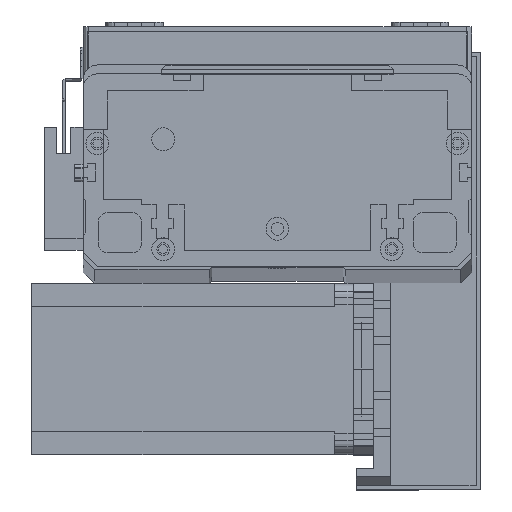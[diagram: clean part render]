
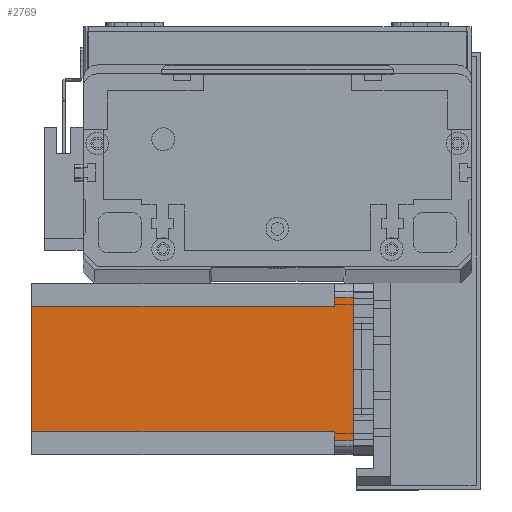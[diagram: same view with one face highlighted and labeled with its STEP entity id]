
A CAD part, top view. The second image highlights one B-rep face of the part: STEP entity #2769.
In plain terms, the highlighted planar face has unit normal (0, 0, 1) as drawn and (0, -1, 0) by its records, which use the part's own axes.
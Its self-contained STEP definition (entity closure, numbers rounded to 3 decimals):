
#468 = EDGE_CURVE ( 'NONE', #26422, #17543, #1198, .T. ) ;
#1128 = ORIENTED_EDGE ( 'NONE', *, *, #14085, .T. ) ;
#1198 = LINE ( 'NONE', #6750, #25864 ) ;
#1526 = EDGE_LOOP ( 'NONE', ( #18288, #14370, #23108, #1128, #24113, #30729, #12075, #21266 ) ) ;
#2769 = ADVANCED_FACE ( 'NONE', ( #15404 ), #23449, .T. ) ;
#2921 = EDGE_CURVE ( 'NONE', #29241, #30781, #5242, .T. ) ;
#4244 = LINE ( 'NONE', #14426, #27968 ) ;
#4728 = CARTESIAN_POINT ( 'NONE',  ( 0., 0., -112.5 ) ) ;
#4792 = DIRECTION ( 'NONE',  ( 0., 0., 1. ) ) ;
#5242 = LINE ( 'NONE', #11088, #15777 ) ;
#5704 = CARTESIAN_POINT ( 'NONE',  ( 8., 0., -6.5 ) ) ;
#6750 = CARTESIAN_POINT ( 'NONE',  ( 8., 0., -112.5 ) ) ;
#6922 = CARTESIAN_POINT ( 'NONE',  ( 52., 0., -112.5 ) ) ;
#7076 = VERTEX_POINT ( 'NONE', #6922 ) ;
#7979 = VERTEX_POINT ( 'NONE', #28545 ) ;
#9500 = DIRECTION ( 'NONE',  ( -1., 0., 0. ) ) ;
#9653 = DIRECTION ( 'NONE',  ( 1., 0., 0. ) ) ;
#9737 = VECTOR ( 'NONE', #9653, 1000. ) ;
#9899 = EDGE_CURVE ( 'NONE', #26422, #7076, #21628, .T. ) ;
#10257 = DIRECTION ( 'NONE',  ( 1., 0., 0. ) ) ;
#10340 = VECTOR ( 'NONE', #18407, 1000. ) ;
#10406 = CARTESIAN_POINT ( 'NONE',  ( 8., 0., -112.5 ) ) ;
#10653 = EDGE_CURVE ( 'NONE', #13506, #7979, #30642, .T. ) ;
#11088 = CARTESIAN_POINT ( 'NONE',  ( 0., 0., 0. ) ) ;
#11297 = CARTESIAN_POINT ( 'NONE',  ( 52., 0., -6.5 ) ) ;
#12075 = ORIENTED_EDGE ( 'NONE', *, *, #9899, .T. ) ;
#12722 = EDGE_CURVE ( 'NONE', #13506, #7076, #16650, .T. ) ;
#13506 = VERTEX_POINT ( 'NONE', #20465 ) ;
#14085 = EDGE_CURVE ( 'NONE', #29241, #17628, #16206, .T. ) ;
#14370 = ORIENTED_EDGE ( 'NONE', *, *, #27603, .T. ) ;
#14426 = CARTESIAN_POINT ( 'NONE',  ( 55., 0., -112.5 ) ) ;
#14642 = CARTESIAN_POINT ( 'NONE',  ( 5., 0., 0. ) ) ;
#15359 = VECTOR ( 'NONE', #9500, 1000. ) ;
#15404 = FACE_OUTER_BOUND ( 'NONE', #1526, .T. ) ;
#15762 = DIRECTION ( 'NONE',  ( 0., 0., -1. ) ) ;
#15777 = VECTOR ( 'NONE', #10257, 1000. ) ;
#15996 = EDGE_CURVE ( 'NONE', #17543, #17628, #21658, .T. ) ;
#16206 = LINE ( 'NONE', #25141, #27899 ) ;
#16650 = LINE ( 'NONE', #27647, #10340 ) ;
#16834 = DIRECTION ( 'NONE',  ( 0., 0., 1. ) ) ;
#17543 = VERTEX_POINT ( 'NONE', #5704 ) ;
#17628 = VERTEX_POINT ( 'NONE', #20347 ) ;
#18233 = AXIS2_PLACEMENT_3D ( 'NONE', #24100, #23546, #23656 ) ;
#18288 = ORIENTED_EDGE ( 'NONE', *, *, #10653, .T. ) ;
#18407 = DIRECTION ( 'NONE',  ( 0., 0., -1. ) ) ;
#18992 = VECTOR ( 'NONE', #27713, 1000. ) ;
#20347 = CARTESIAN_POINT ( 'NONE',  ( 5., 0., -6.5 ) ) ;
#20465 = CARTESIAN_POINT ( 'NONE',  ( 52., 0., -6.5 ) ) ;
#21266 = ORIENTED_EDGE ( 'NONE', *, *, #12722, .F. ) ;
#21628 = LINE ( 'NONE', #4728, #9737 ) ;
#21658 = LINE ( 'NONE', #25941, #15359 ) ;
#23039 = CARTESIAN_POINT ( 'NONE',  ( 55., 0., 0. ) ) ;
#23108 = ORIENTED_EDGE ( 'NONE', *, *, #2921, .F. ) ;
#23449 = PLANE ( 'NONE',  #18233 ) ;
#23546 = DIRECTION ( 'NONE',  ( 0., -1., 0. ) ) ;
#23656 = DIRECTION ( 'NONE',  ( 0., 0., -1. ) ) ;
#24100 = CARTESIAN_POINT ( 'NONE',  ( 0., 0., -112.5 ) ) ;
#24113 = ORIENTED_EDGE ( 'NONE', *, *, #15996, .F. ) ;
#25141 = CARTESIAN_POINT ( 'NONE',  ( 5., 0., -112.5 ) ) ;
#25864 = VECTOR ( 'NONE', #4792, 1000. ) ;
#25941 = CARTESIAN_POINT ( 'NONE',  ( 8., 0., -6.5 ) ) ;
#26422 = VERTEX_POINT ( 'NONE', #10406 ) ;
#27603 = EDGE_CURVE ( 'NONE', #7979, #30781, #4244, .T. ) ;
#27647 = CARTESIAN_POINT ( 'NONE',  ( 52., 0., -112.5 ) ) ;
#27713 = DIRECTION ( 'NONE',  ( 1., 0., 0. ) ) ;
#27899 = VECTOR ( 'NONE', #15762, 1000. ) ;
#27968 = VECTOR ( 'NONE', #16834, 1000. ) ;
#28545 = CARTESIAN_POINT ( 'NONE',  ( 55., 0., -6.5 ) ) ;
#29241 = VERTEX_POINT ( 'NONE', #14642 ) ;
#30642 = LINE ( 'NONE', #11297, #18992 ) ;
#30729 = ORIENTED_EDGE ( 'NONE', *, *, #468, .F. ) ;
#30781 = VERTEX_POINT ( 'NONE', #23039 ) ;
